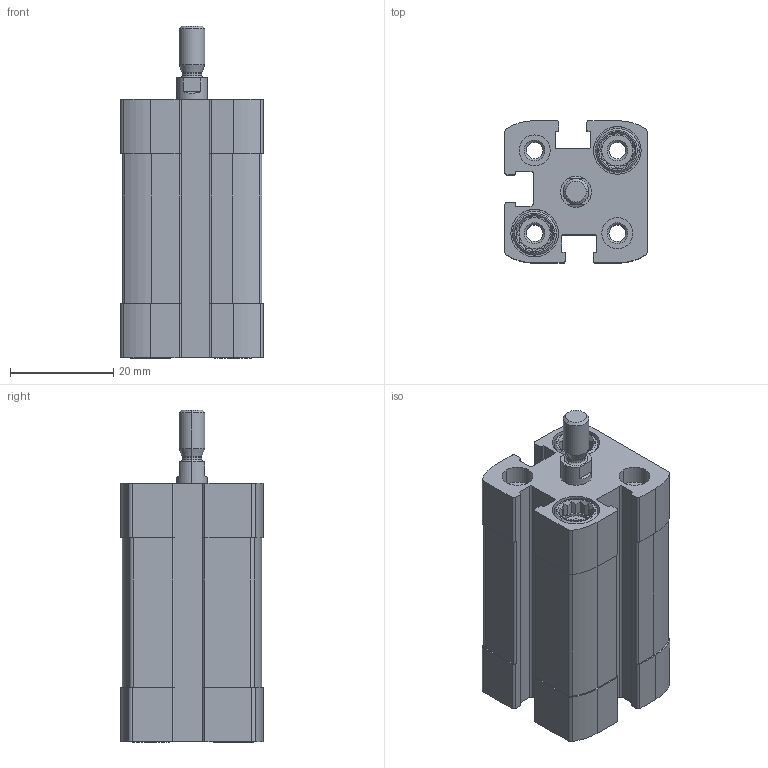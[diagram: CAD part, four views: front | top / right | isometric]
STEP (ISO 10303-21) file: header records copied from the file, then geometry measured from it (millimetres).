
FILE_DESCRIPTION (( 'STEP AP203' ), '1' );
FILE_NAME ('CCN12-15M.STEP', '2017-03-24T10:55:27', ( '' ), ( '' ), 'SwSTEP 2.0', 'SolidWorks 2016', '' );
FILE_SCHEMA (( 'CONFIG_CONTROL_DESIGN' ));
Length unit declared in the file: millimetre
Products named in the file (3): CCN12-15M---(Z); CCN12-15M_(KS); CCN12-15M
Assembly tree (2 placements, depth 2):
  CCN12-15M
    CCN12-15M---(Z)
    CCN12-15M_(KS)
Bounding box: 27.5 x 27.5 x 64.2 mm (x, y, z)
Volume: 27179.9 mm3; surface area: 14590.9 mm2
Topology: 2 solids, 2 shells, 365 faces, 936 edges, 610 vertices
Faces by surface type: plane 187, cylinder 134, cone 40, bspline 4
Entity records: 11553 total; most frequent: CARTESIAN_POINT 2276, DIRECTION 1886, ORIENTED_EDGE 1872, EDGE_CURVE 936, AXIS2_PLACEMENT_3D 684, VERTEX_POINT 610, VECTOR 518, LINE 518
